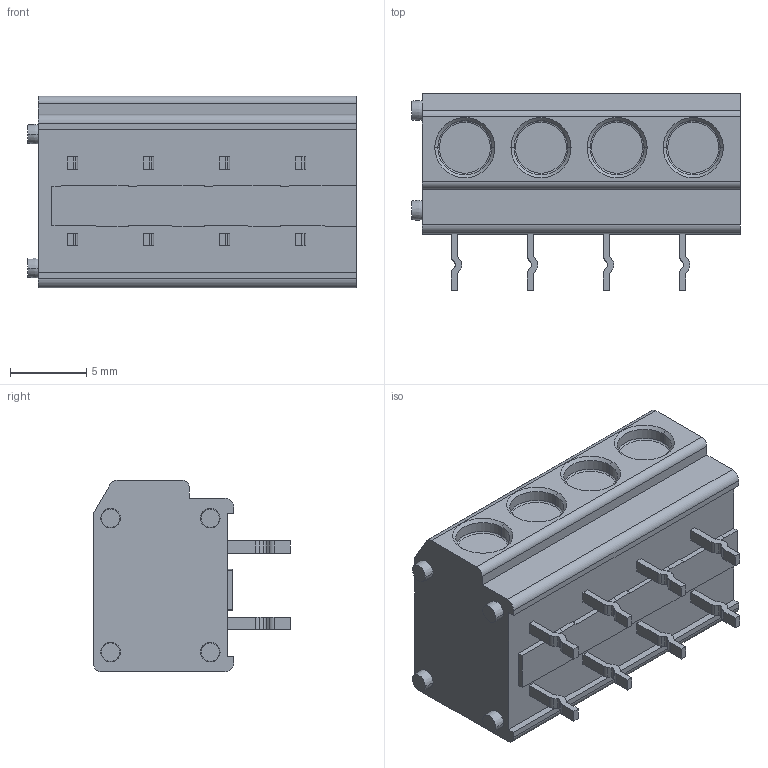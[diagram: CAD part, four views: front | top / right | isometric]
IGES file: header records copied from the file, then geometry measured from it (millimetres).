
Start section:  PTC IGES file: c-2834097-3-a1-3d.igs
Global section: file name: c-2834097-3-a1-3d.igs; native system: Creo Parametric by PTC Inc.; preprocessor: 2021072; author: workeradm; organization: Unknown; units: millimetre
Bounding box: 21.6 x 12.9 x 12.6 mm (x, y, z)
Surface area: 1288.7 mm2 (no closed solid volume)
Topology: 0 solids, 0 shells, 274 faces, 1445 edges, 1482 vertices
Faces by surface type: bspline 173, revolution 101
